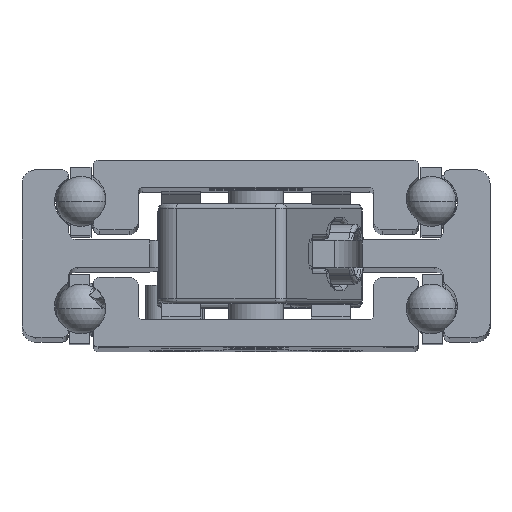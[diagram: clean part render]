
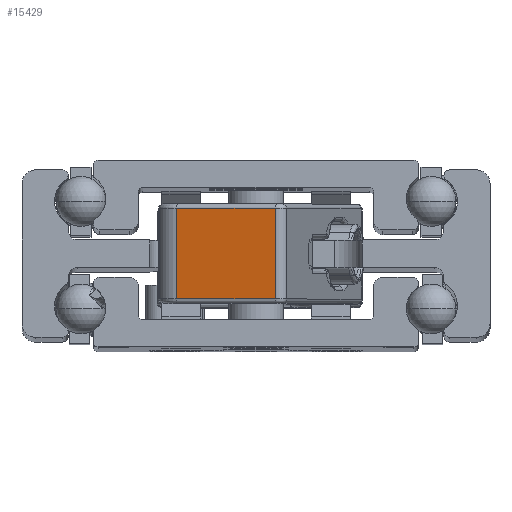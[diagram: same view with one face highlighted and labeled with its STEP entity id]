
A CAD part, top view. The second image highlights one B-rep face of the part: STEP entity #15429.
In plain terms, the highlighted planar face has unit normal (-0.225, 0, 0.974) as drawn and (-1, 0, 0) by its records, which use the part's own axes.
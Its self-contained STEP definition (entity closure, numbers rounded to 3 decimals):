
#172 = ORIENTED_EDGE ( 'NONE', *, *, #836, .T. ) ;
#836 = EDGE_CURVE ( 'NONE', #25964, #18168, #3227, .T. ) ;
#1081 = CARTESIAN_POINT ( 'NONE',  ( -37., -3., -4.9 ) ) ;
#2612 = LINE ( 'NONE', #17769, #17902 ) ;
#2999 = FACE_OUTER_BOUND ( 'NONE', #9411, .T. ) ;
#3227 = LINE ( 'NONE', #10046, #16127 ) ;
#4193 = CARTESIAN_POINT ( 'NONE',  ( -37., 8., -4.9 ) ) ;
#4778 = ORIENTED_EDGE ( 'NONE', *, *, #26808, .T. ) ;
#6246 = VECTOR ( 'NONE', #24179, 1000. ) ;
#7398 = DIRECTION ( 'NONE',  ( 0., 1., 0. ) ) ;
#8730 = LINE ( 'NONE', #17076, #22410 ) ;
#9411 = EDGE_LOOP ( 'NONE', ( #18598, #4778, #19687, #172 ) ) ;
#10046 = CARTESIAN_POINT ( 'NONE',  ( -37., 8., 4.9 ) ) ;
#11289 = DIRECTION ( 'NONE',  ( 0., 0., 1. ) ) ;
#15429 = ADVANCED_FACE ( 'NONE', ( #2999 ), #17882, .F. ) ;
#15530 = LINE ( 'NONE', #25899, #6246 ) ;
#15903 = CARTESIAN_POINT ( 'NONE',  ( -37., -4., 5.4 ) ) ;
#16013 = AXIS2_PLACEMENT_3D ( 'NONE', #15903, #24544, #7398 ) ;
#16127 = VECTOR ( 'NONE', #18109, 1000. ) ;
#17076 = CARTESIAN_POINT ( 'NONE',  ( -37., 8., 5.4 ) ) ;
#17500 = VERTEX_POINT ( 'NONE', #1081 ) ;
#17769 = CARTESIAN_POINT ( 'NONE',  ( -37., -3., 5.4 ) ) ;
#17882 = PLANE ( 'NONE',  #16013 ) ;
#17902 = VECTOR ( 'NONE', #11289, 1000. ) ;
#18109 = DIRECTION ( 'NONE',  ( 0., 1., 0. ) ) ;
#18168 = VERTEX_POINT ( 'NONE', #24363 ) ;
#18598 = ORIENTED_EDGE ( 'NONE', *, *, #20778, .T. ) ;
#19687 = ORIENTED_EDGE ( 'NONE', *, *, #21862, .T. ) ;
#20778 = EDGE_CURVE ( 'NONE', #18168, #26886, #8730, .T. ) ;
#21566 = CARTESIAN_POINT ( 'NONE',  ( -37., -3., 4.9 ) ) ;
#21862 = EDGE_CURVE ( 'NONE', #17500, #25964, #2612, .T. ) ;
#22410 = VECTOR ( 'NONE', #23467, 1000. ) ;
#23467 = DIRECTION ( 'NONE',  ( 0., 0., -1. ) ) ;
#24179 = DIRECTION ( 'NONE',  ( 0., -1., 0. ) ) ;
#24363 = CARTESIAN_POINT ( 'NONE',  ( -37., 8., 4.9 ) ) ;
#24544 = DIRECTION ( 'NONE',  ( 1., 0., 0. ) ) ;
#25899 = CARTESIAN_POINT ( 'NONE',  ( -37., -4., -4.9 ) ) ;
#25964 = VERTEX_POINT ( 'NONE', #21566 ) ;
#26808 = EDGE_CURVE ( 'NONE', #26886, #17500, #15530, .T. ) ;
#26886 = VERTEX_POINT ( 'NONE', #4193 ) ;
